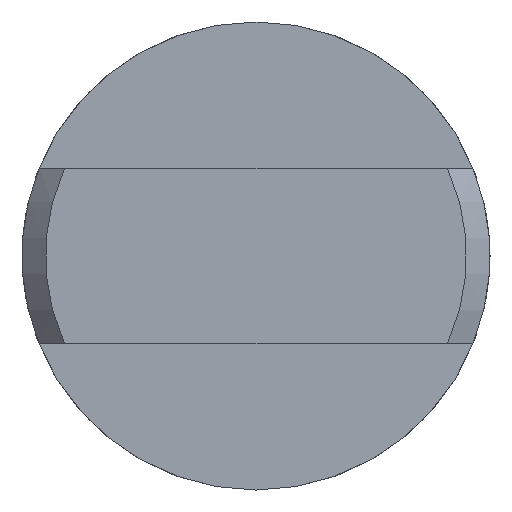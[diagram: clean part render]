
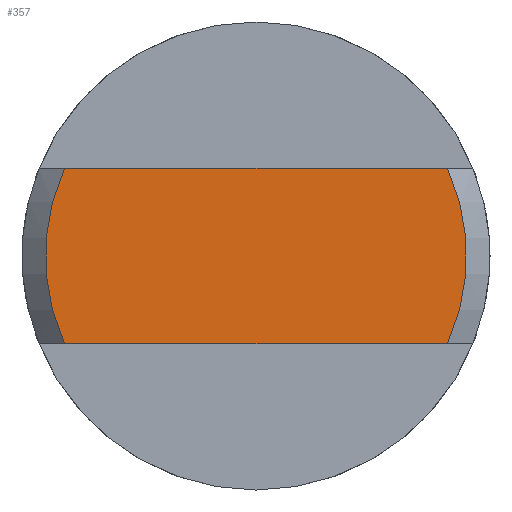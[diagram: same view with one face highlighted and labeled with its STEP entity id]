
A CAD part, left-side view. The second image highlights one B-rep face of the part: STEP entity #357.
In plain terms, the highlighted planar face has unit normal (-1, 0, 0).
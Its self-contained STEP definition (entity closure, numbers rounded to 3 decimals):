
#23 = DIRECTION ( 'NONE',  ( 0., 0., -1. ) ) ;
#33 = CARTESIAN_POINT ( 'NONE',  ( -7.5, 1.636, -0.75 ) ) ;
#38 = VERTEX_POINT ( 'NONE', #763 ) ;
#60 = VERTEX_POINT ( 'NONE', #411 ) ;
#76 = LINE ( 'NONE', #621, #152 ) ;
#79 = VERTEX_POINT ( 'NONE', #488 ) ;
#97 = DIRECTION ( 'NONE',  ( 0., -1., 0. ) ) ;
#109 = ORIENTED_EDGE ( 'NONE', *, *, #893, .F. ) ;
#115 = EDGE_CURVE ( 'NONE', #79, #60, #183, .T. ) ;
#131 = DIRECTION ( 'NONE',  ( 0., 1., 0. ) ) ;
#147 = VECTOR ( 'NONE', #97, 1000. ) ;
#152 = VECTOR ( 'NONE', #131, 1000. ) ;
#154 = ORIENTED_EDGE ( 'NONE', *, *, #115, .T. ) ;
#183 = CIRCLE ( 'NONE', #775, 1.8 ) ;
#203 = EDGE_CURVE ( 'NONE', #38, #60, #244, .T. ) ;
#242 = DIRECTION ( 'NONE',  ( -1., 0., 0. ) ) ;
#244 = LINE ( 'NONE', #431, #147 ) ;
#255 = EDGE_CURVE ( 'NONE', #38, #268, #653, .T. ) ;
#268 = VERTEX_POINT ( 'NONE', #33 ) ;
#335 = PLANE ( 'NONE',  #419 ) ;
#339 = DIRECTION ( 'NONE',  ( 0., 0., -1. ) ) ;
#357 = ADVANCED_FACE ( 'NONE', ( #891 ), #335, .F. ) ;
#368 = DIRECTION ( 'NONE',  ( 0., 0., -1. ) ) ;
#411 = CARTESIAN_POINT ( 'NONE',  ( -7.5, -1.636, 0.75 ) ) ;
#419 = AXIS2_PLACEMENT_3D ( 'NONE', #825, #454, #339 ) ;
#431 = CARTESIAN_POINT ( 'NONE',  ( -7.5, 0., 0.75 ) ) ;
#447 = AXIS2_PLACEMENT_3D ( 'NONE', #510, #504, #23 ) ;
#448 = ORIENTED_EDGE ( 'NONE', *, *, #203, .F. ) ;
#454 = DIRECTION ( 'NONE',  ( 1., 0., 0. ) ) ;
#466 = ORIENTED_EDGE ( 'NONE', *, *, #255, .T. ) ;
#488 = CARTESIAN_POINT ( 'NONE',  ( -7.5, -1.636, -0.75 ) ) ;
#504 = DIRECTION ( 'NONE',  ( -1., 0., 0. ) ) ;
#510 = CARTESIAN_POINT ( 'NONE',  ( -7.5, 0., 0. ) ) ;
#619 = EDGE_LOOP ( 'NONE', ( #448, #466, #109, #154 ) ) ;
#621 = CARTESIAN_POINT ( 'NONE',  ( -7.5, 0., -0.75 ) ) ;
#653 = CIRCLE ( 'NONE', #447, 1.8 ) ;
#763 = CARTESIAN_POINT ( 'NONE',  ( -7.5, 1.636, 0.75 ) ) ;
#775 = AXIS2_PLACEMENT_3D ( 'NONE', #863, #242, #368 ) ;
#825 = CARTESIAN_POINT ( 'NONE',  ( -7.5, 0., 0. ) ) ;
#863 = CARTESIAN_POINT ( 'NONE',  ( -7.5, 0., 0. ) ) ;
#891 = FACE_OUTER_BOUND ( 'NONE', #619, .T. ) ;
#893 = EDGE_CURVE ( 'NONE', #79, #268, #76, .T. ) ;
